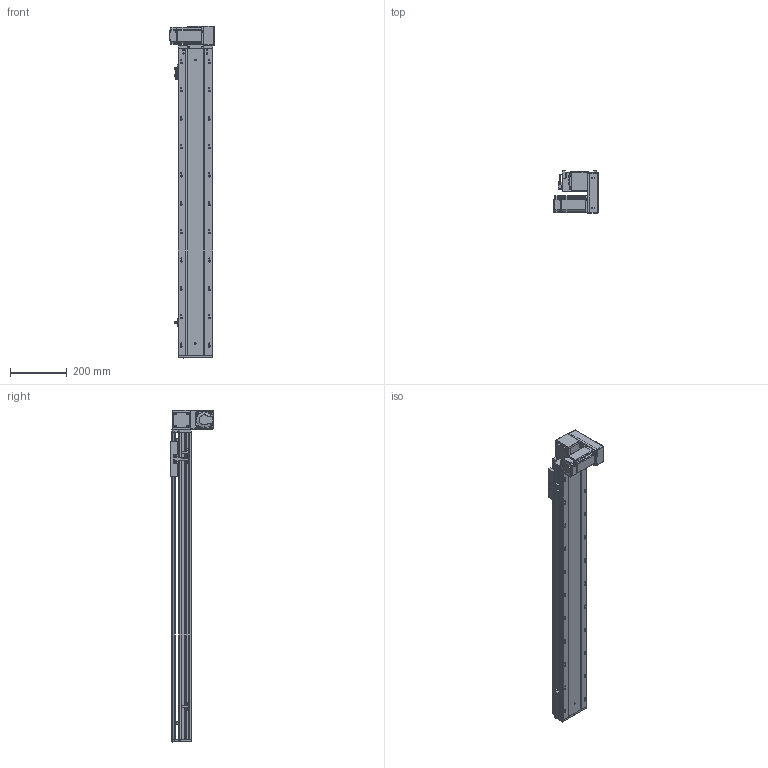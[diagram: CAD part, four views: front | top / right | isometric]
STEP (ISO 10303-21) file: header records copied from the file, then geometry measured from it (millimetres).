
FILE_DESCRIPTION (( 'STEP AP203' ), '1' );
FILE_NAME ('RY120-T-300-DR.SLDASM_850.step', '2021-03-01T03:35:28', ( '盈信电脑' ), ( '东莞市道滘镇水果街19号' ), 'SwSTEP 2.0', 'SolidWorks 2012', '' );
FILE_SCHEMA (( 'CONFIG_CONTROL_DESIGN' ));
Products named in the file (17): RY120-T-300-DR倰第奻裔啣_850; RY120-T-300-DR.SLDASM_850; RY120-T主同步轮轴承压盖; RY120-T蹟翐M4; 15; RY120-T萇儂欶; RY120-T萇儂假蚾啣; RY120-T翋肮祭謫裔啣; 滅袉蝶18-10; RY120-T翋肮祭盓傅釱; RY120-T肮祭湍揤踡輸2; 覜茼ん672; RY120綴裔啣; RY120外置感应片(140共用）; RY120-T肮祭湍揤踡輸1; RY120肮祭湍臏賑輸; RY120-T-300-DR倰第菁釱_850
Assembly tree (22 placements, depth 2):
  RY120-T-300-DR.SLDASM_850
    RY120-T-300-DR倰第菁釱_850
    RY120-T-300-DR倰第奻裔啣_850
    RY120肮祭湍臏賑輸
    RY120綴裔啣
    覜茼ん672  x3
    RY120外置感应片(140共用）
    RY120-T肮祭湍揤踡輸1
    RY120-T肮祭湍揤踡輸2
    RY120-T翋肮祭盓傅釱
    滅袉蝶18-10  x2
    RY120-T翋肮祭謫裔啣
    15
    RY120-T萇儂假蚾啣
    RY120-T蹟翐M4  x4
    RY120-T萇儂欶
    RY120-T主同步轮轴承压盖
Bounding box: 155.5 x 150 x 1171 mm (x, y, z)
Volume: 3281202.1 mm3; surface area: 1222308.3 mm2
Topology: 23 solids, 23 shells, 2968 faces, 8160 edges, 5250 vertices
Faces by surface type: plane 1456, cylinder 1174, cone 249, bspline 89
Entity records: 96449 total; most frequent: CARTESIAN_POINT 25608, ORIENTED_EDGE 14760, DIRECTION 13734, EDGE_CURVE 7380, VERTEX_POINT 4837, AXIS2_PLACEMENT_3D 4623, VECTOR 4488, LINE 4488
